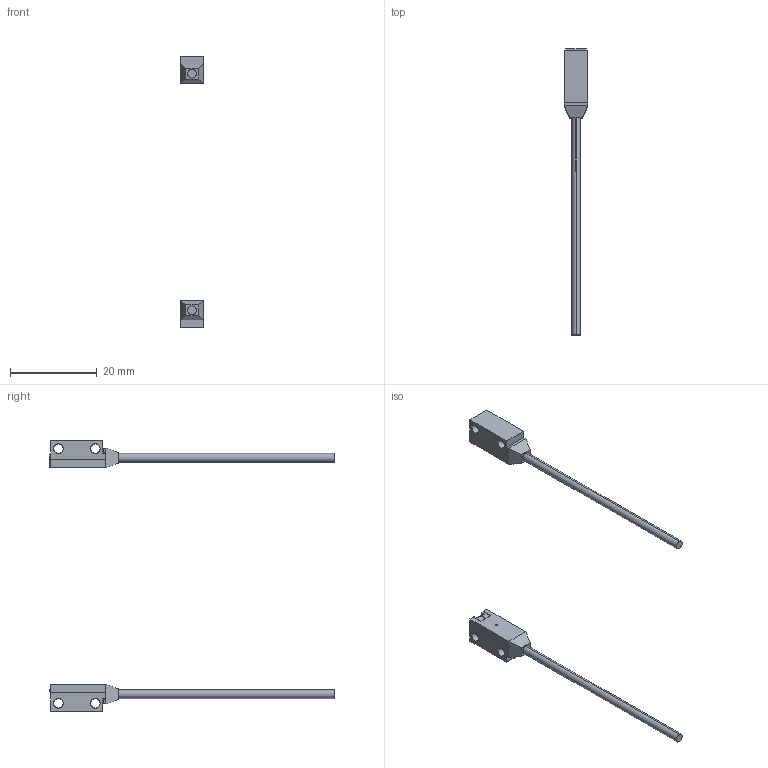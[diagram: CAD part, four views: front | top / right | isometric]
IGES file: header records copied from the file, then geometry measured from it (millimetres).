
Start section: SolidWorks IGES file using analytic representation for surfaces
Global section: file name: C:\catalog\ex-z11a.IGS; native system: SolidWorks 2010; preprocessor: SolidWorks 2010; author: hi1633; date: 150507.101152; units: millimetre
Bounding box: 5.5 x 65.9 x 62.5 mm (x, y, z)
Surface area: 1557.5 mm2 (no closed solid volume)
Topology: 0 solids, 0 shells, 117 faces, 1018 edges, 1018 vertices
Faces by surface type: bspline 101, revolution 16
